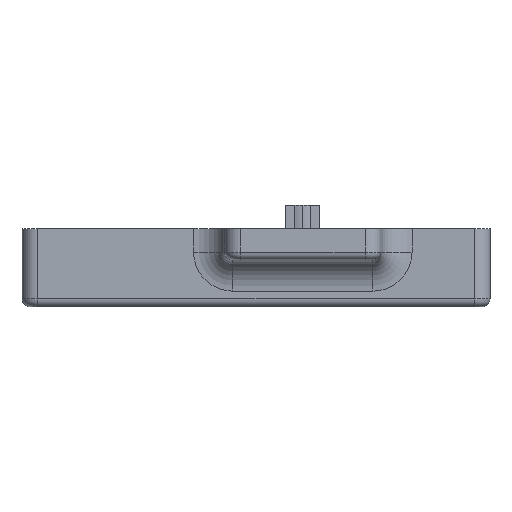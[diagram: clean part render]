
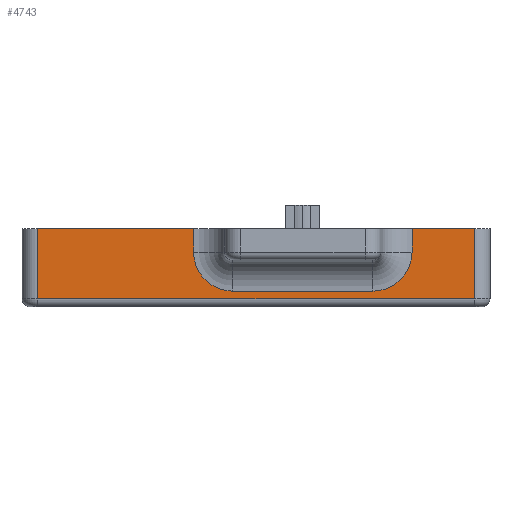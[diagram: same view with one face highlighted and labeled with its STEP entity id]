
A CAD part, left-side view. The second image highlights one B-rep face of the part: STEP entity #4743.
In plain terms, the highlighted planar face has unit normal (-1, 0, 0).
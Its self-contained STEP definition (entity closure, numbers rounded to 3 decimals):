
#84 = CARTESIAN_POINT ( 'NONE',  ( -7.75, -16.5, -2. ) ) ;
#120 = VERTEX_POINT ( 'NONE', #492 ) ;
#153 = CARTESIAN_POINT ( 'NONE',  ( -7.75, -7.5, -2. ) ) ;
#204 = VERTEX_POINT ( 'NONE', #3890 ) ;
#227 = EDGE_CURVE ( 'NONE', #2731, #2337, #855, .T. ) ;
#238 = CARTESIAN_POINT ( 'NONE',  ( -7.75, -23., -3. ) ) ;
#278 = DIRECTION ( 'NONE',  ( 1., 0., 0. ) ) ;
#360 = VERTEX_POINT ( 'NONE', #2533 ) ;
#492 = CARTESIAN_POINT ( 'NONE',  ( -7.75, 5., 2. ) ) ;
#591 = CARTESIAN_POINT ( 'NONE',  ( -7.75, 0., 2. ) ) ;
#625 = CARTESIAN_POINT ( 'NONE',  ( -7.75, -16.5, 0.5 ) ) ;
#855 = LINE ( 'NONE', #1531, #2623 ) ;
#895 = CARTESIAN_POINT ( 'NONE',  ( -7.75, -23., 2. ) ) ;
#896 = ORIENTED_EDGE ( 'NONE', *, *, #3067, .T. ) ;
#1002 = DIRECTION ( 'NONE',  ( 0., 1., 0. ) ) ;
#1195 = DIRECTION ( 'NONE',  ( 0., 0., -1. ) ) ;
#1227 = EDGE_CURVE ( 'NONE', #3887, #1849, #2329, .T. ) ;
#1298 = EDGE_CURVE ( 'NONE', #1368, #120, #1708, .T. ) ;
#1303 = DIRECTION ( 'NONE',  ( 0., 0., -1. ) ) ;
#1368 = VERTEX_POINT ( 'NONE', #1777 ) ;
#1531 = CARTESIAN_POINT ( 'NONE',  ( -7.75, -19., 0.5 ) ) ;
#1584 = CARTESIAN_POINT ( 'NONE',  ( -7.75, -23., -2.5 ) ) ;
#1618 = VECTOR ( 'NONE', #1002, 1000. ) ;
#1658 = LINE ( 'NONE', #2687, #3991 ) ;
#1678 = FACE_OUTER_BOUND ( 'NONE', #2816, .T. ) ;
#1708 = LINE ( 'NONE', #591, #1618 ) ;
#1777 = CARTESIAN_POINT ( 'NONE',  ( -7.75, -5., 2. ) ) ;
#1780 = AXIS2_PLACEMENT_3D ( 'NONE', #4627, #3789, #4287 ) ;
#1849 = VERTEX_POINT ( 'NONE', #2599 ) ;
#1876 = LINE ( 'NONE', #4801, #2413 ) ;
#1925 = DIRECTION ( 'NONE',  ( 0., 1., 0. ) ) ;
#1961 = ORIENTED_EDGE ( 'NONE', *, *, #4616, .T. ) ;
#1991 = LINE ( 'NONE', #3147, #4612 ) ;
#1997 = LINE ( 'NONE', #153, #2270 ) ;
#2132 = DIRECTION ( 'NONE',  ( 1., 0., 0. ) ) ;
#2270 = VECTOR ( 'NONE', #1925, 1000. ) ;
#2329 = CIRCLE ( 'NONE', #1780, 2.5 ) ;
#2337 = VERTEX_POINT ( 'NONE', #2516 ) ;
#2413 = VECTOR ( 'NONE', #3374, 1000. ) ;
#2516 = CARTESIAN_POINT ( 'NONE',  ( -7.75, -19., 0.5 ) ) ;
#2533 = CARTESIAN_POINT ( 'NONE',  ( -7.75, -23., -2.5 ) ) ;
#2586 = CARTESIAN_POINT ( 'NONE',  ( -7.75, -7.5, -2. ) ) ;
#2592 = VERTEX_POINT ( 'NONE', #895 ) ;
#2599 = CARTESIAN_POINT ( 'NONE',  ( -7.75, -5., 0.5 ) ) ;
#2623 = VECTOR ( 'NONE', #1195, 1000. ) ;
#2687 = CARTESIAN_POINT ( 'NONE',  ( -7.75, 5., -3. ) ) ;
#2731 = VERTEX_POINT ( 'NONE', #3633 ) ;
#2732 = ORIENTED_EDGE ( 'NONE', *, *, #1227, .T. ) ;
#2745 = LINE ( 'NONE', #238, #4603 ) ;
#2816 = EDGE_LOOP ( 'NONE', ( #4031, #4359, #4507, #1961, #2732, #4490, #3041, #2918, #896, #4088 ) ) ;
#2870 = DIRECTION ( 'NONE',  ( 0., 0., 1. ) ) ;
#2918 = ORIENTED_EDGE ( 'NONE', *, *, #3183, .T. ) ;
#2920 = EDGE_CURVE ( 'NONE', #360, #2592, #2745, .T. ) ;
#3041 = ORIENTED_EDGE ( 'NONE', *, *, #1298, .T. ) ;
#3067 = EDGE_CURVE ( 'NONE', #204, #360, #3137, .T. ) ;
#3137 = LINE ( 'NONE', #1584, #4218 ) ;
#3147 = CARTESIAN_POINT ( 'NONE',  ( -7.75, -5., 2. ) ) ;
#3183 = EDGE_CURVE ( 'NONE', #120, #204, #1658, .T. ) ;
#3256 = VERTEX_POINT ( 'NONE', #84 ) ;
#3374 = DIRECTION ( 'NONE',  ( 0., 1., 0. ) ) ;
#3383 = EDGE_CURVE ( 'NONE', #2337, #3256, #4531, .T. ) ;
#3471 = DIRECTION ( 'NONE',  ( 0., 0., -1. ) ) ;
#3558 = EDGE_CURVE ( 'NONE', #2592, #2731, #1876, .T. ) ;
#3603 = AXIS2_PLACEMENT_3D ( 'NONE', #4290, #278, #4651 ) ;
#3619 = PLANE ( 'NONE',  #3603 ) ;
#3633 = CARTESIAN_POINT ( 'NONE',  ( -7.75, -19., 2. ) ) ;
#3789 = DIRECTION ( 'NONE',  ( 1., 0., 0. ) ) ;
#3822 = DIRECTION ( 'NONE',  ( 0., -1., 0. ) ) ;
#3887 = VERTEX_POINT ( 'NONE', #2586 ) ;
#3890 = CARTESIAN_POINT ( 'NONE',  ( -7.75, 5., -2.5 ) ) ;
#3963 = DIRECTION ( 'NONE',  ( 0., 0., 1. ) ) ;
#3991 = VECTOR ( 'NONE', #3471, 1000. ) ;
#4031 = ORIENTED_EDGE ( 'NONE', *, *, #3558, .T. ) ;
#4070 = AXIS2_PLACEMENT_3D ( 'NONE', #625, #2132, #1303 ) ;
#4088 = ORIENTED_EDGE ( 'NONE', *, *, #2920, .T. ) ;
#4171 = EDGE_CURVE ( 'NONE', #1849, #1368, #1991, .T. ) ;
#4218 = VECTOR ( 'NONE', #3822, 1000. ) ;
#4287 = DIRECTION ( 'NONE',  ( 0., 0., -1. ) ) ;
#4290 = CARTESIAN_POINT ( 'NONE',  ( -7.75, 0., -3. ) ) ;
#4359 = ORIENTED_EDGE ( 'NONE', *, *, #227, .T. ) ;
#4490 = ORIENTED_EDGE ( 'NONE', *, *, #4171, .T. ) ;
#4507 = ORIENTED_EDGE ( 'NONE', *, *, #3383, .T. ) ;
#4531 = CIRCLE ( 'NONE', #4070, 2.5 ) ;
#4603 = VECTOR ( 'NONE', #2870, 1000. ) ;
#4612 = VECTOR ( 'NONE', #3963, 1000. ) ;
#4616 = EDGE_CURVE ( 'NONE', #3256, #3887, #1997, .T. ) ;
#4627 = CARTESIAN_POINT ( 'NONE',  ( -7.75, -7.5, 0.5 ) ) ;
#4651 = DIRECTION ( 'NONE',  ( 0., 0., -1. ) ) ;
#4743 = ADVANCED_FACE ( 'NONE', ( #1678 ), #3619, .F. ) ;
#4801 = CARTESIAN_POINT ( 'NONE',  ( -7.75, 0., 2. ) ) ;
